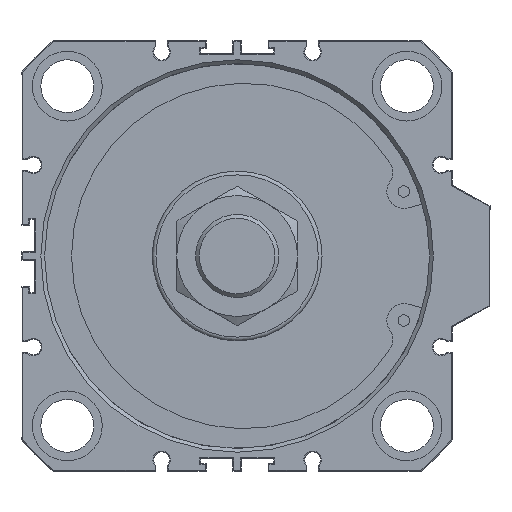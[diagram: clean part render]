
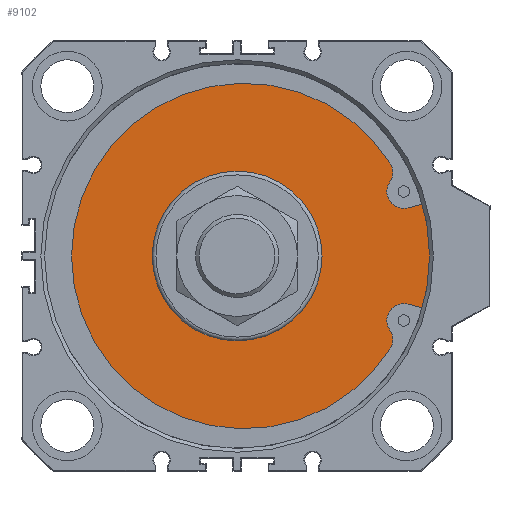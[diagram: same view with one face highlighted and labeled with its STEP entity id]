
A CAD part, front view. The second image highlights one B-rep face of the part: STEP entity #9102.
In plain terms, the highlighted planar face has unit normal (0, -1, 0).
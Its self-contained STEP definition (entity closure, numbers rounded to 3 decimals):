
#581=LINE('',#13125,#1181);
#582=LINE('',#13137,#1182);
#1181=VECTOR('',#11024,1000.);
#1182=VECTOR('',#11035,1000.);
#2240=ORIENTED_EDGE('',*,*,#3792,.T.);
#2241=ORIENTED_EDGE('',*,*,#3793,.T.);
#2242=ORIENTED_EDGE('',*,*,#3794,.T.);
#2243=ORIENTED_EDGE('',*,*,#3795,.T.);
#2244=ORIENTED_EDGE('',*,*,#3796,.T.);
#2245=ORIENTED_EDGE('',*,*,#3797,.T.);
#2246=ORIENTED_EDGE('',*,*,#3798,.T.);
#2247=ORIENTED_EDGE('',*,*,#3790,.F.);
#2248=ORIENTED_EDGE('',*,*,#3799,.F.);
#3790=EDGE_CURVE('',#4538,#4539,#4752,.T.);
#3792=EDGE_CURVE('',#4538,#4540,#581,.T.);
#3793=EDGE_CURVE('',#4540,#4541,#4753,.T.);
#3794=EDGE_CURVE('',#4541,#4542,#4754,.T.);
#3795=EDGE_CURVE('',#4542,#4543,#4755,.T.);
#3796=EDGE_CURVE('',#4543,#4544,#4756,.T.);
#3797=EDGE_CURVE('',#4544,#4545,#4757,.T.);
#3798=EDGE_CURVE('',#4545,#4539,#582,.T.);
#3799=EDGE_CURVE('',#4546,#4546,#4758,.T.);
#4538=VERTEX_POINT('',#13120);
#4539=VERTEX_POINT('',#13122);
#4540=VERTEX_POINT('',#13126);
#4541=VERTEX_POINT('',#13128);
#4542=VERTEX_POINT('',#13130);
#4543=VERTEX_POINT('',#13132);
#4544=VERTEX_POINT('',#13134);
#4545=VERTEX_POINT('',#13136);
#4546=VERTEX_POINT('',#13139);
#4752=CIRCLE('',#9681,53.);
#4753=CIRCLE('',#9683,4.5);
#4754=CIRCLE('',#9684,4.5);
#4755=CIRCLE('',#9685,45.77);
#4756=CIRCLE('',#9686,4.5);
#4757=CIRCLE('',#9687,4.5);
#4758=CIRCLE('',#9688,22.5);
#5005=EDGE_LOOP('',(#2240,#2241,#2242,#2243,#2244,#2245,#2246,#2247));
#5006=EDGE_LOOP('',(#2248));
#5487=FACE_BOUND('',#5005,.T.);
#5488=FACE_BOUND('',#5006,.T.);
#5858=PLANE('',#9682);
#9102=ADVANCED_FACE('',(#5487,#5488),#5858,.T.);
#9681=AXIS2_PLACEMENT_3D('',#13121,#11019,#11020);
#9682=AXIS2_PLACEMENT_3D('',#13124,#11022,#11023);
#9683=AXIS2_PLACEMENT_3D('',#13127,#11025,#11026);
#9684=AXIS2_PLACEMENT_3D('',#13129,#11027,#11028);
#9685=AXIS2_PLACEMENT_3D('',#13131,#11029,#11030);
#9686=AXIS2_PLACEMENT_3D('',#13133,#11031,#11032);
#9687=AXIS2_PLACEMENT_3D('',#13135,#11033,#11034);
#9688=AXIS2_PLACEMENT_3D('',#13138,#11036,#11037);
#11019=DIRECTION('',(0.,1.,0.));
#11020=DIRECTION('',(-1.,0.,0.));
#11022=DIRECTION('',(0.,-1.,0.));
#11023=DIRECTION('',(1.,0.,0.));
#11024=DIRECTION('',(-0.966,0.,-0.259));
#11025=DIRECTION('',(0.,1.,0.));
#11026=DIRECTION('',(1.,0.,0.));
#11027=DIRECTION('',(0.,-1.,0.));
#11028=DIRECTION('',(-1.,0.,0.));
#11029=DIRECTION('',(0.,-1.,0.));
#11030=DIRECTION('',(1.,0.,0.));
#11031=DIRECTION('',(0.,-1.,0.));
#11032=DIRECTION('',(-1.,0.,0.));
#11033=DIRECTION('',(0.,1.,0.));
#11034=DIRECTION('',(1.,0.,0.));
#11035=DIRECTION('',(0.966,0.,-0.259));
#11036=DIRECTION('',(0.,-1.,0.));
#11037=DIRECTION('',(1.,0.,0.));
#13120=CARTESIAN_POINT('',(51.039,8.,14.283));
#13121=CARTESIAN_POINT('',(0.,8.,0.));
#13122=CARTESIAN_POINT('',(51.039,8.,-14.283));
#13124=CARTESIAN_POINT('',(0.,8.,-53.));
#13125=CARTESIAN_POINT('',(51.039,8.,14.283));
#13126=CARTESIAN_POINT('',(45.35,8.,12.758));
#13127=CARTESIAN_POINT('',(44.185,8.,17.105));
#13128=CARTESIAN_POINT('',(40.45,8.,19.615));
#13129=CARTESIAN_POINT('',(36.73,8.,22.147));
#13130=CARTESIAN_POINT('',(40.642,8.,24.372));
#13131=CARTESIAN_POINT('',(1.9,8.,0.));
#13132=CARTESIAN_POINT('',(40.642,8.,-24.372));
#13133=CARTESIAN_POINT('',(36.73,8.,-22.147));
#13134=CARTESIAN_POINT('',(40.45,8.,-19.615));
#13135=CARTESIAN_POINT('',(44.185,8.,-17.105));
#13136=CARTESIAN_POINT('',(45.35,8.,-12.758));
#13137=CARTESIAN_POINT('',(45.35,8.,-12.758));
#13138=CARTESIAN_POINT('',(0.,8.,0.));
#13139=CARTESIAN_POINT('',(22.5,8.,0.));
